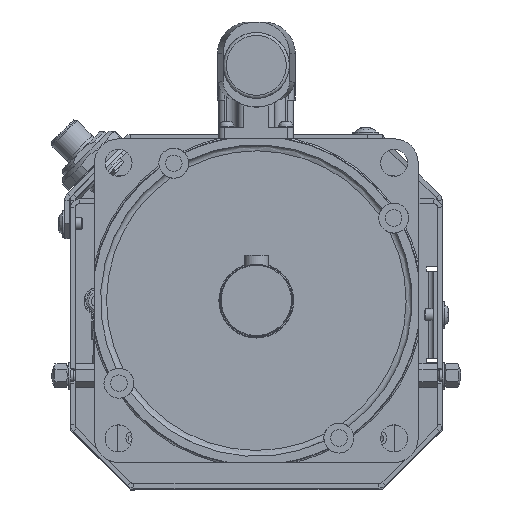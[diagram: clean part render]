
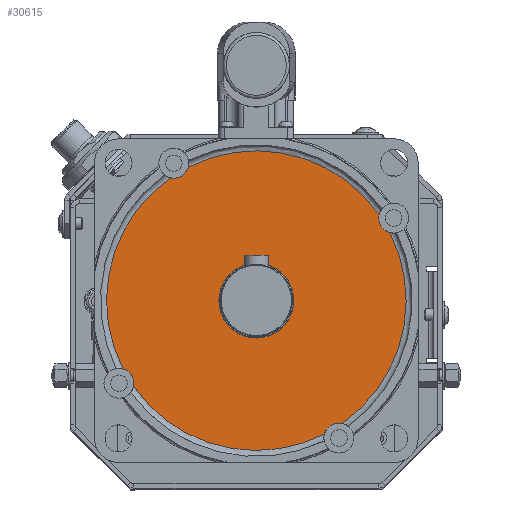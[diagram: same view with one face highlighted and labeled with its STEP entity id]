
A CAD part, top view. The second image highlights one B-rep face of the part: STEP entity #30615.
In plain terms, the highlighted planar face has unit normal (0, 0, 1).
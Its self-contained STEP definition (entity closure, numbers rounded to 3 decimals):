
#2382=FACE_BOUND('',#5501,.T.);
#2805=PLANE('',#32492);
#3710=FACE_OUTER_BOUND('',#5500,.T.);
#5500=EDGE_LOOP('',(#21678,#21679,#21680,#21681,#21682,#21683,#21684,#21685));
#5501=EDGE_LOOP('',(#21686));
#7620=CIRCLE('',#32493,50.);
#7621=CIRCLE('',#32494,5.);
#7622=CIRCLE('',#32495,50.);
#7623=CIRCLE('',#32496,5.);
#7624=CIRCLE('',#32497,50.);
#7625=CIRCLE('',#32498,5.);
#7626=CIRCLE('',#32499,50.);
#7627=CIRCLE('',#32500,5.);
#7628=CIRCLE('',#32501,12.5);
#14030=VERTEX_POINT('',#44015);
#14031=VERTEX_POINT('',#44016);
#14032=VERTEX_POINT('',#44018);
#14033=VERTEX_POINT('',#44020);
#14034=VERTEX_POINT('',#44022);
#14035=VERTEX_POINT('',#44024);
#14036=VERTEX_POINT('',#44026);
#14037=VERTEX_POINT('',#44028);
#14038=VERTEX_POINT('',#44031);
#17053=EDGE_CURVE('',#14030,#14031,#7620,.T.);
#17054=EDGE_CURVE('',#14032,#14030,#7621,.T.);
#17055=EDGE_CURVE('',#14033,#14032,#7622,.T.);
#17056=EDGE_CURVE('',#14034,#14033,#7623,.T.);
#17057=EDGE_CURVE('',#14035,#14034,#7624,.T.);
#17058=EDGE_CURVE('',#14036,#14035,#7625,.T.);
#17059=EDGE_CURVE('',#14037,#14036,#7626,.T.);
#17060=EDGE_CURVE('',#14031,#14037,#7627,.T.);
#17061=EDGE_CURVE('',#14038,#14038,#7628,.T.);
#21678=ORIENTED_EDGE('',*,*,#17053,.F.);
#21679=ORIENTED_EDGE('',*,*,#17054,.F.);
#21680=ORIENTED_EDGE('',*,*,#17055,.F.);
#21681=ORIENTED_EDGE('',*,*,#17056,.F.);
#21682=ORIENTED_EDGE('',*,*,#17057,.F.);
#21683=ORIENTED_EDGE('',*,*,#17058,.F.);
#21684=ORIENTED_EDGE('',*,*,#17059,.F.);
#21685=ORIENTED_EDGE('',*,*,#17060,.F.);
#21686=ORIENTED_EDGE('',*,*,#17061,.T.);
#30615=ADVANCED_FACE('',(#3710,#2382),#2805,.F.);
#32492=AXIS2_PLACEMENT_3D('',#44014,#35725,#35726);
#32493=AXIS2_PLACEMENT_3D('',#44017,#35727,#35728);
#32494=AXIS2_PLACEMENT_3D('',#44019,#35729,#35730);
#32495=AXIS2_PLACEMENT_3D('',#44021,#35731,#35732);
#32496=AXIS2_PLACEMENT_3D('',#44023,#35733,#35734);
#32497=AXIS2_PLACEMENT_3D('',#44025,#35735,#35736);
#32498=AXIS2_PLACEMENT_3D('',#44027,#35737,#35738);
#32499=AXIS2_PLACEMENT_3D('',#44029,#35739,#35740);
#32500=AXIS2_PLACEMENT_3D('',#44030,#35741,#35742);
#32501=AXIS2_PLACEMENT_3D('',#44032,#35743,#35744);
#35725=DIRECTION('center_axis',(0.,0.,
-1.));
#35726=DIRECTION('ref_axis',(-1.,0.,0.));
#35727=DIRECTION('center_axis',(0.,0.,
-1.));
#35728=DIRECTION('ref_axis',(-0.242,-0.97,0.));
#35729=DIRECTION('center_axis',(0.,0.,
1.));
#35730=DIRECTION('ref_axis',(-1.,0.,0.));
#35731=DIRECTION('center_axis',(0.,0.,
-1.));
#35732=DIRECTION('ref_axis',(0.97,-0.242,0.));
#35733=DIRECTION('center_axis',(0.,0.,
1.));
#35734=DIRECTION('ref_axis',(-1.,0.,0.));
#35735=DIRECTION('center_axis',(0.,0.,
-1.));
#35736=DIRECTION('ref_axis',(0.242,0.97,0.));
#35737=DIRECTION('center_axis',(0.,0.,
1.));
#35738=DIRECTION('ref_axis',(-1.,0.,0.));
#35739=DIRECTION('center_axis',(0.,0.,
-1.));
#35740=DIRECTION('ref_axis',(-0.97,0.242,0.));
#35741=DIRECTION('center_axis',(0.,0.,
1.));
#35742=DIRECTION('ref_axis',(-1.,0.,0.));
#35743=DIRECTION('center_axis',(0.,0.,-1.));
#35744=DIRECTION('ref_axis',(0.,1.,0.));
#44014=CARTESIAN_POINT('Origin',(0.,0.,
-50.));
#44015=CARTESIAN_POINT('',(22.733,-44.533,-50.));
#44016=CARTESIAN_POINT('',(-40.979,-28.648,-50.));
#44017=CARTESIAN_POINT('Origin',(0.,0.,
-50.));
#44018=CARTESIAN_POINT('',(28.648,-40.979,-50.));
#44019=CARTESIAN_POINT('Origin',(27.555,-45.858,-50.));
#44020=CARTESIAN_POINT('',(44.533,22.733,-50.));
#44021=CARTESIAN_POINT('Origin',(0.,0.,
-50.));
#44022=CARTESIAN_POINT('',(40.979,28.648,-50.));
#44023=CARTESIAN_POINT('Origin',(45.858,27.555,-50.));
#44024=CARTESIAN_POINT('',(-22.733,44.533,-50.));
#44025=CARTESIAN_POINT('Origin',(0.,0.,
-50.));
#44026=CARTESIAN_POINT('',(-28.648,40.979,-50.));
#44027=CARTESIAN_POINT('Origin',(-27.555,45.858,-50.));
#44028=CARTESIAN_POINT('',(-44.533,-22.733,-50.));
#44029=CARTESIAN_POINT('Origin',(0.,0.,
-50.));
#44030=CARTESIAN_POINT('Origin',(-45.858,-27.555,-50.));
#44031=CARTESIAN_POINT('',(0.,12.5,-50.));
#44032=CARTESIAN_POINT('Origin',(0.,0.,-50.));
